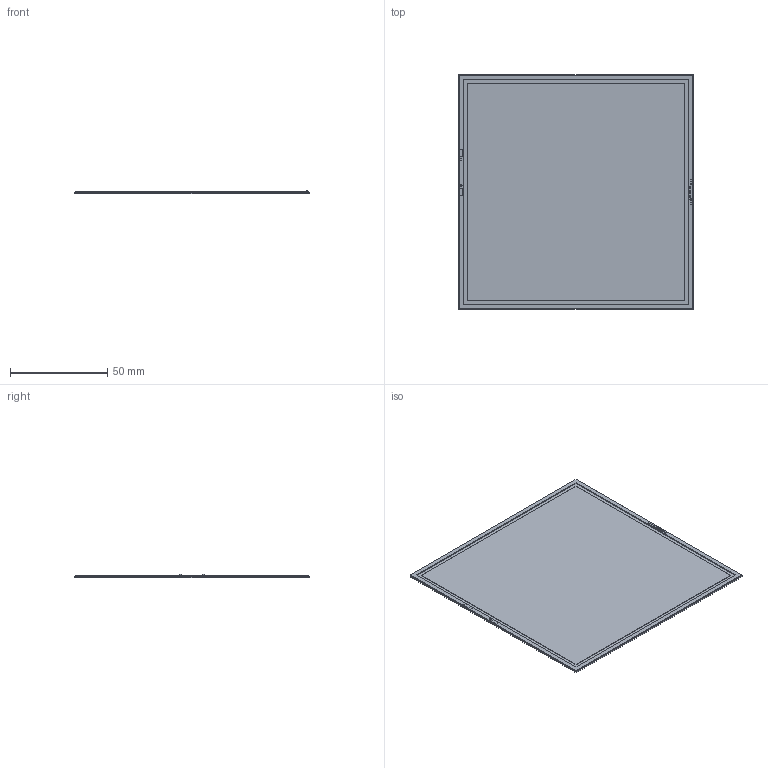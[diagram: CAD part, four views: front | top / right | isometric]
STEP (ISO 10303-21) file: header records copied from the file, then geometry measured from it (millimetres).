
FILE_DESCRIPTION(/* description */ (''),/* implementation_level */ '2;1');
FILE_NAME(/* name */ 'C:\Users\Jörg\Documents\001-Privat\Projekt\Philips\BCOL\Design_Oled\FL300_Brite\FL300_Brite_wm-N_customer_version_9254.000.12500\9254.000.12500-01.stp',/* time_stamp */ '2014-10-01T11:55:31+02:00',/* author */ ('Jörg'),/* organization */ (''),/* preprocessor_version */ 'ST-DEVELOPER v15.2',/* originating_system */ 'Autodesk Inventor 2014',/* authorisation */ '');
FILE_SCHEMA (('AUTOMOTIVE_DESIGN { 1 0 10303 214 3 1 1 }'));
Length unit declared in the file: millimetre
Products named in the file (6): Bauteil_01-01; Bauteil_02-01; Bauteil_03-01; Bauteil_04-01; Bauteil_05-01; 9254.000.12500-01
Bounding box: 120.5 x 120.5 x 1.82 mm (x, y, z)
Volume: 13953.1 mm3; surface area: 57068.1 mm2
Topology: 7 solids, 7 shells, 117 faces, 276 edges, 184 vertices
Faces by surface type: plane 117
Entity records: 3239 total; most frequent: CARTESIAN_POINT 538, ORIENTED_EDGE 504, DIRECTION 488, LINE 252, VECTOR 252, EDGE_CURVE 252, VERTEX_POINT 168, EDGE_LOOP 118
